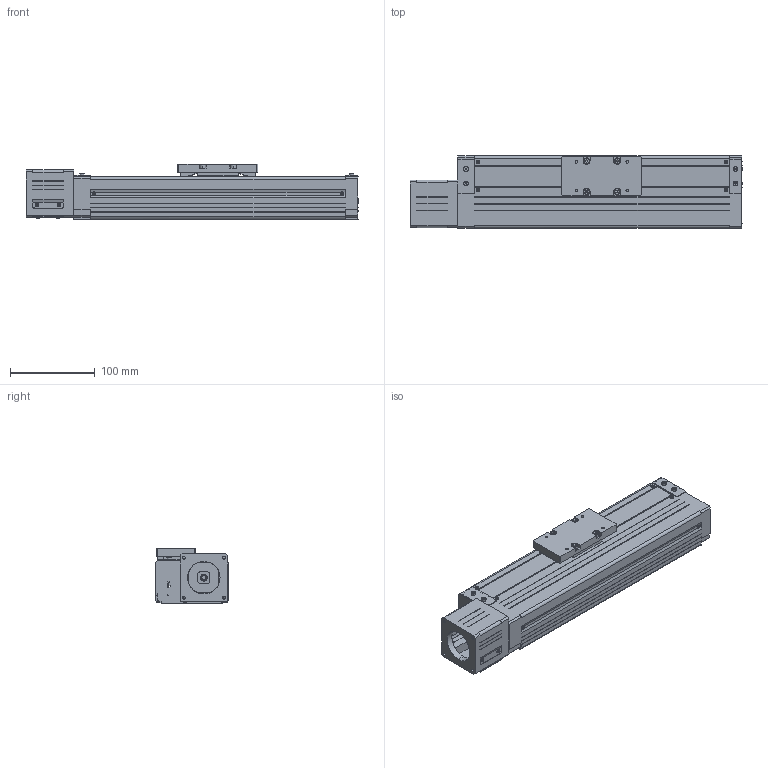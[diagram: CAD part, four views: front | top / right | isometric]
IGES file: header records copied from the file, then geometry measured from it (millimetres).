
Global section: file name: No Iges File Name specified; native system: AutoDesk Inventor R10; preprocessor: AutoDesk Inventor Iges Exporter R10; author: No Author specified; organization: No Organization specified; date: 20110701.171825; units: millimetre
Bounding box: 391 x 85 x 65 mm (x, y, z)
Surface area: 254640.6 mm2 (no closed solid volume)
Topology: 0 solids, 0 shells, 946 faces, 5844 edges, 5824 vertices
Faces by surface type: bspline 946
